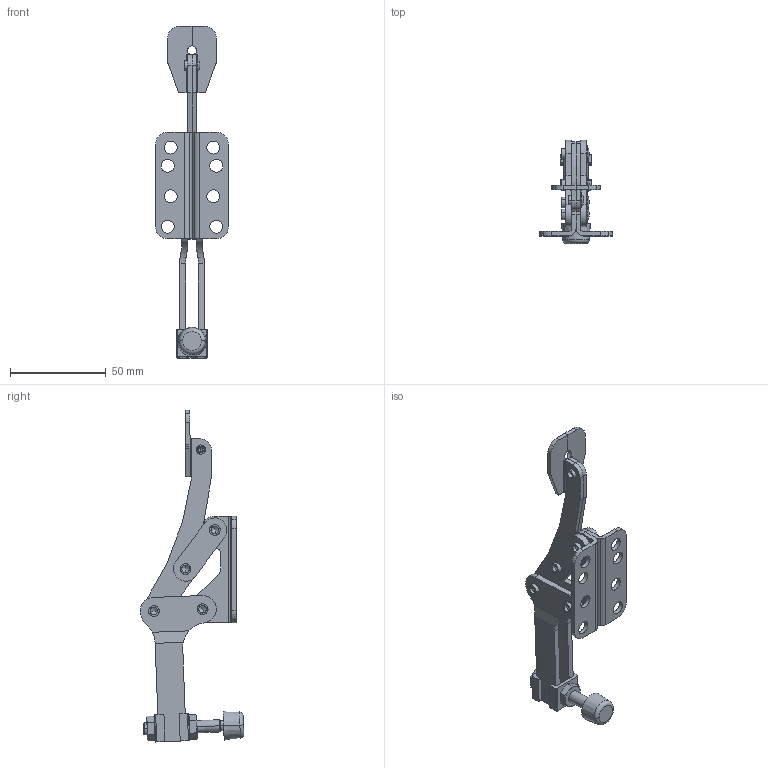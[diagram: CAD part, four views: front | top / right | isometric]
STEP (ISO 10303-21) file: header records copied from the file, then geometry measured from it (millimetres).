
FILE_DESCRIPTION((''),'2;1');
FILE_NAME('C:\lapeer-mfg\H-400\H-400.stp','2005-02-06T08:14:57',('rtaylor'),(''),'Autodesk Inventor 9','Autodesk Inventor 9','');
FILE_SCHEMA(('AUTOMOTIVE_DESIGN { 1 0 10303 214 1 1 1 1 }'));
Length unit declared in the file: inch
Products named in the file (16): H-400; 120015L; 120015R; 110027L; 110027R; 300039; 100039L; 100039r; 150047; 130015; 150012; W-470007; 170007; 170003; 171002; 4 - 20
Assembly tree (21 placements, depth 3):
  H-400
    120015L
    120015R
    110027L
    110027R
    300039
      100039L
      100039r
      150047
    130015  x2
    150012  x4
    W-470007
      170007
      170003
      171002  x2
      4 - 20  x2
Bounding box: 38.1 x 53.96 x 173.13 mm (x, y, z)
Volume: 30911.1 mm3; surface area: 30596.8 mm2
Topology: 19 solids, 19 shells, 431 faces, 1096 edges, 704 vertices
Faces by surface type: bspline 144, cylinder 108, plane 96, cone 44, torus 32, sphere 7
Entity records: 12132 total; most frequent: CARTESIAN_POINT 3844, DIRECTION 1682, ORIENTED_EDGE 1662, EDGE_CURVE 831, AXIS2_PLACEMENT_3D 656, VERTEX_POINT 542, CIRCLE 407, EDGE_LOOP 381
